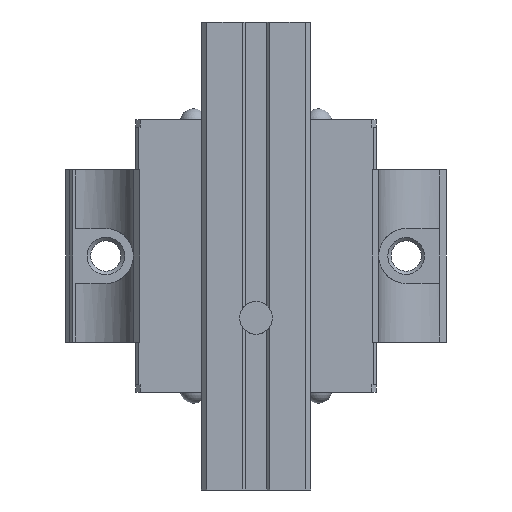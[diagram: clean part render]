
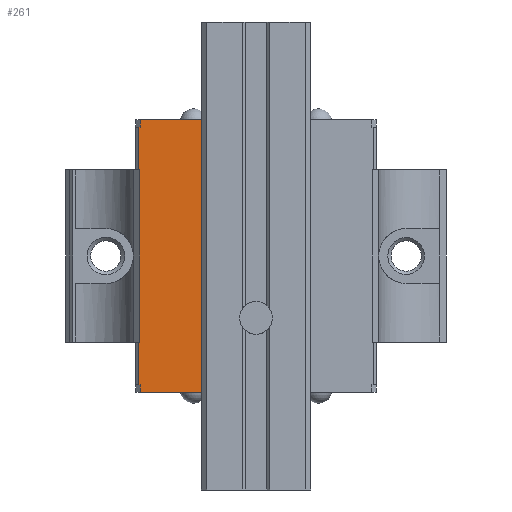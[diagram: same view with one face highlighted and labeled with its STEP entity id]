
A CAD part, front view. The second image highlights one B-rep face of the part: STEP entity #261.
In plain terms, the highlighted planar face has unit normal (0, -1, 0).
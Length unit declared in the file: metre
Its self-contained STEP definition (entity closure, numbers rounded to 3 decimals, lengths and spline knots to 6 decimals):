
#261 = ADVANCED_FACE( '', ( #656 ), #657, .F. );
#656 = FACE_OUTER_BOUND( '', #1218, .T. );
#657 = PLANE( '', #1219 );
#1218 = EDGE_LOOP( '', ( #1910, #1911, #1912, #1913, #1914, #1915, #1916, #1917, #1918, #1919, #1920, #1921 ) );
#1219 = AXIS2_PLACEMENT_3D( '', #1922, #1923, #1924 );
#1910 = ORIENTED_EDGE( '', *, *, #3287, .T. );
#1911 = ORIENTED_EDGE( '', *, *, #3288, .T. );
#1912 = ORIENTED_EDGE( '', *, *, #3289, .F. );
#1913 = ORIENTED_EDGE( '', *, *, #3290, .F. );
#1914 = ORIENTED_EDGE( '', *, *, #3291, .T. );
#1915 = ORIENTED_EDGE( '', *, *, #3292, .T. );
#1916 = ORIENTED_EDGE( '', *, *, #3293, .T. );
#1917 = ORIENTED_EDGE( '', *, *, #3294, .T. );
#1918 = ORIENTED_EDGE( '', *, *, #3156, .F. );
#1919 = ORIENTED_EDGE( '', *, *, #3295, .T. );
#1920 = ORIENTED_EDGE( '', *, *, #3186, .T. );
#1921 = ORIENTED_EDGE( '', *, *, #3296, .F. );
#1922 = CARTESIAN_POINT( '', ( 0.0159, 0.0045, -0.0202 ) );
#1923 = DIRECTION( '', ( 0., 1., 0. ) );
#1924 = DIRECTION( '', ( 1., 0., 0. ) );
#3156 = EDGE_CURVE( '', #3733, #3728, #3735, .T. );
#3186 = EDGE_CURVE( '', #3788, #3785, #3789, .T. );
#3287 = EDGE_CURVE( '', #3962, #3963, #3964, .T. );
#3288 = EDGE_CURVE( '', #3963, #3965, #3966, .T. );
#3289 = EDGE_CURVE( '', #3967, #3965, #3968, .T. );
#3290 = EDGE_CURVE( '', #3969, #3967, #3970, .T. );
#3291 = EDGE_CURVE( '', #3969, #3971, #3972, .T. );
#3292 = EDGE_CURVE( '', #3971, #3973, #3974, .T. );
#3293 = EDGE_CURVE( '', #3973, #3975, #3976, .F. );
#3294 = EDGE_CURVE( '', #3975, #3728, #3977, .T. );
#3295 = EDGE_CURVE( '', #3733, #3788, #3978, .T. );
#3296 = EDGE_CURVE( '', #3962, #3785, #3979, .T. );
#3728 = VERTEX_POINT( '', #4580 );
#3733 = VERTEX_POINT( '', #4587 );
#3735 = LINE( '', #4590, #4591 );
#3785 = VERTEX_POINT( '', #4658 );
#3788 = VERTEX_POINT( '', #4662 );
#3789 = LINE( '', #4663, #4664 );
#3962 = VERTEX_POINT( '', #4934 );
#3963 = VERTEX_POINT( '', #4935 );
#3964 = LINE( '', #4936, #4937 );
#3965 = VERTEX_POINT( '', #4938 );
#3966 = LINE( '', #4939, #4940 );
#3967 = VERTEX_POINT( '', #4941 );
#3968 = LINE( '', #4942, #4943 );
#3969 = VERTEX_POINT( '', #4944 );
#3970 = LINE( '', #4945, #4946 );
#3971 = VERTEX_POINT( '', #4947 );
#3972 = LINE( '', #4948, #4949 );
#3973 = VERTEX_POINT( '', #4950 );
#3974 = LINE( '', #4951, #4952 );
#3975 = VERTEX_POINT( '', #4953 );
#3976 = LINE( '', #4954, #4955 );
#3977 = LINE( '', #4956, #4957 );
#3978 = LINE( '', #4958, #4959 );
#3979 = LINE( '', #4960, #4961 );
#4580 = CARTESIAN_POINT( '', ( -0.0158, 0.0045, -0.01335 ) );
#4587 = CARTESIAN_POINT( '', ( -0.0158, 0.0045, -0.01435 ) );
#4590 = CARTESIAN_POINT( '', ( -0.0158, 0.0045, -0.01435 ) );
#4591 = VECTOR( '', #5822, 1. );
#4658 = CARTESIAN_POINT( '', ( -0.016, 0.0045, -0.0202 ) );
#4662 = CARTESIAN_POINT( '', ( -0.016, 0.0045, -0.01435 ) );
#4663 = CARTESIAN_POINT( '', ( -0.016, 0.0045, -0.0437 ) );
#4664 = VECTOR( '', #5853, 1. );
#4934 = CARTESIAN_POINT( '', ( -0.0159, 0.0045, -0.0202 ) );
#4935 = CARTESIAN_POINT( '', ( -0.0159, 0.0045, -0.0437 ) );
#4936 = CARTESIAN_POINT( '', ( -0.0159, 0.0045, -0.0202 ) );
#4937 = VECTOR( '', #5972, 1. );
#4938 = CARTESIAN_POINT( '', ( -0.016, 0.0045, -0.0437 ) );
#4939 = CARTESIAN_POINT( '', ( 0.0159, 0.0045, -0.0437 ) );
#4940 = VECTOR( '', #5973, 1. );
#4941 = CARTESIAN_POINT( '', ( -0.016, 0.0045, -0.04955 ) );
#4942 = CARTESIAN_POINT( '', ( -0.016, 0.0045, -0.04955 ) );
#4943 = VECTOR( '', #5974, 1. );
#4944 = CARTESIAN_POINT( '', ( -0.0158, 0.0045, -0.04955 ) );
#4945 = CARTESIAN_POINT( '', ( 0., 0.0045, -0.04955 ) );
#4946 = VECTOR( '', #5975, 1. );
#4947 = CARTESIAN_POINT( '', ( -0.0158, 0.0045, -0.05055 ) );
#4948 = CARTESIAN_POINT( '', ( -0.0158, 0.0045, -0.04955 ) );
#4949 = VECTOR( '', #5976, 1. );
#4950 = CARTESIAN_POINT( '', ( -0.005941, 0.0045, -0.05055 ) );
#4951 = CARTESIAN_POINT( '', ( -0.0158, 0.0045, -0.05055 ) );
#4952 = VECTOR( '', #5977, 1. );
#4953 = CARTESIAN_POINT( '', ( -0.005941, 0.0045, -0.01335 ) );
#4954 = CARTESIAN_POINT( '', ( -0.005941, 0.0045, -0.0202 ) );
#4955 = VECTOR( '', #5978, 1. );
#4956 = CARTESIAN_POINT( '', ( 0.0158, 0.0045, -0.01335 ) );
#4957 = VECTOR( '', #5979, 1. );
#4958 = CARTESIAN_POINT( '', ( 0.0159, 0.0045, -0.01435 ) );
#4959 = VECTOR( '', #5980, 1. );
#4960 = CARTESIAN_POINT( '', ( 0.0159, 0.0045, -0.0202 ) );
#4961 = VECTOR( '', #5981, 1. );
#5822 = DIRECTION( '', ( 0., 0., 1. ) );
#5853 = DIRECTION( '', ( 0., 0., -1. ) );
#5972 = DIRECTION( '', ( 0., 0., -1. ) );
#5973 = DIRECTION( '', ( -1., 0., 0. ) );
#5974 = DIRECTION( '', ( 0., 0., 1. ) );
#5975 = DIRECTION( '', ( -1., 0., 0. ) );
#5976 = DIRECTION( '', ( 0., 0., -1. ) );
#5977 = DIRECTION( '', ( 1., 0., 0. ) );
#5978 = DIRECTION( '', ( 0., 0., -1. ) );
#5979 = DIRECTION( '', ( -1., 0., 0. ) );
#5980 = DIRECTION( '', ( -1., 0., 0. ) );
#5981 = DIRECTION( '', ( -1., 0., 0. ) );
